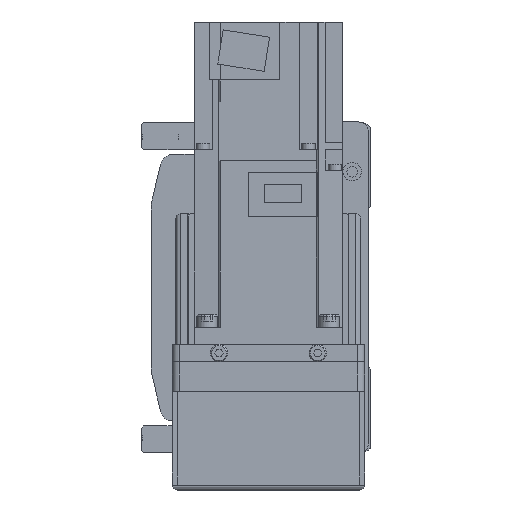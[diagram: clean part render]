
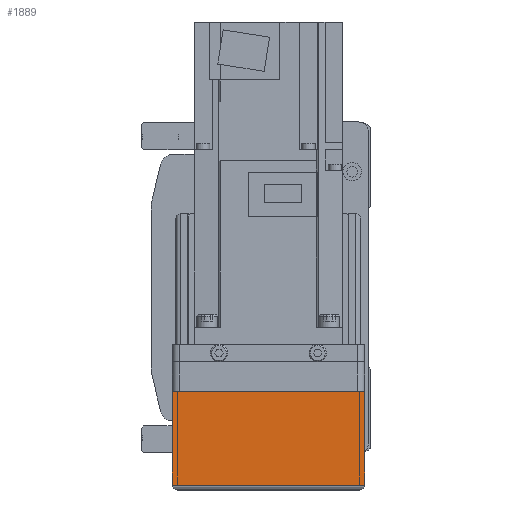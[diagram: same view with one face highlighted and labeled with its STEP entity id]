
A CAD part, left-side view. The second image highlights one B-rep face of the part: STEP entity #1889.
In plain terms, the highlighted planar face has unit normal (-1, 0, 0).
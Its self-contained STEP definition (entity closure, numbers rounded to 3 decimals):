
#1889 = ADVANCED_FACE( '', ( #4493 ), #4494, .F. );
#4493 = FACE_OUTER_BOUND( '', #7997, .T. );
#4494 = PLANE( '', #7998 );
#7997 = EDGE_LOOP( '', ( #13395, #13396, #13397, #13398 ) );
#7998 = AXIS2_PLACEMENT_3D( '', #13399, #13400, #13401 );
#13395 = ORIENTED_EDGE( '', *, *, #21462, .F. );
#13396 = ORIENTED_EDGE( '', *, *, #19848, .F. );
#13397 = ORIENTED_EDGE( '', *, *, #21463, .T. );
#13398 = ORIENTED_EDGE( '', *, *, #21464, .F. );
#13399 = CARTESIAN_POINT( '', ( -158., 36., 7. ) );
#13400 = DIRECTION( '', ( 1., 0., 0. ) );
#13401 = DIRECTION( '', ( 0., 0., -1. ) );
#19848 = EDGE_CURVE( '', #23561, #23563, #23564, .T. );
#21462 = EDGE_CURVE( '', #23563, #26248, #26278, .T. );
#21463 = EDGE_CURVE( '', #23561, #24275, #26279, .T. );
#21464 = EDGE_CURVE( '', #26248, #24275, #26280, .T. );
#23561 = VERTEX_POINT( '', #29088 );
#23563 = VERTEX_POINT( '', #29091 );
#23564 = LINE( '', #29092, #29093 );
#24275 = VERTEX_POINT( '', #30379 );
#26248 = VERTEX_POINT( '', #33261 );
#26278 = LINE( '', #33300, #33301 );
#26279 = LINE( '', #33302, #33303 );
#26280 = LINE( '', #33304, #33305 );
#29088 = CARTESIAN_POINT( '', ( -158., 39., -50. ) );
#29091 = CARTESIAN_POINT( '', ( -158., 39., -12.1 ) );
#29092 = CARTESIAN_POINT( '', ( -158., 39., -50. ) );
#29093 = VECTOR( '', #37085, 1000. );
#30379 = CARTESIAN_POINT( '', ( -158., -39., -50. ) );
#33261 = CARTESIAN_POINT( '', ( -158., -39., -12.1 ) );
#33300 = CARTESIAN_POINT( '', ( -158., 50., -12.1 ) );
#33301 = VECTOR( '', #39206, 1000. );
#33302 = CARTESIAN_POINT( '', ( -158., 40., -50. ) );
#33303 = VECTOR( '', #39207, 1000. );
#33304 = CARTESIAN_POINT( '', ( -158., -39., -12.1 ) );
#33305 = VECTOR( '', #39208, 1000. );
#37085 = DIRECTION( '', ( 0., 0., 1. ) );
#39206 = DIRECTION( '', ( 0., -1., 0. ) );
#39207 = DIRECTION( '', ( 0., -1., 0. ) );
#39208 = DIRECTION( '', ( 0., 0., -1. ) );
